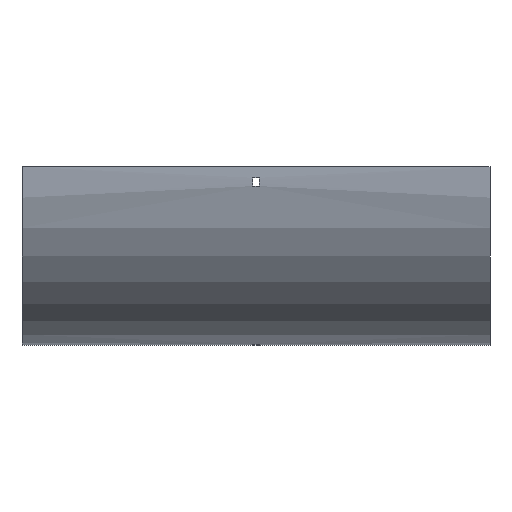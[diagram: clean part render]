
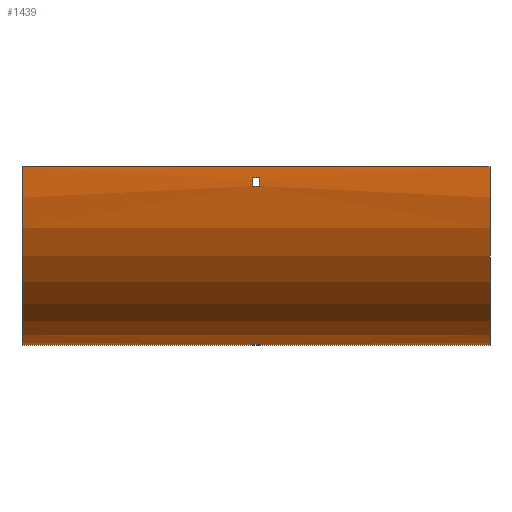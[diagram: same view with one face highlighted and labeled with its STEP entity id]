
A CAD part, front view. The second image highlights one B-rep face of the part: STEP entity #1439.
In plain terms, the highlighted cylindrical face has radius 192.5 mm (diameter 385 mm), a partial arc.
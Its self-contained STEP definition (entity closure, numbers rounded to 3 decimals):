
#4 = DIRECTION ( 'NONE',  ( 0., 0., -1. ) ) ;
#21 = EDGE_CURVE ( 'NONE', #1578, #52, #1414, .T. ) ;
#52 = VERTEX_POINT ( 'NONE', #741 ) ;
#53 = DIRECTION ( 'NONE',  ( -1., 0., 0. ) ) ;
#79 = ORIENTED_EDGE ( 'NONE', *, *, #157, .T. ) ;
#81 = VERTEX_POINT ( 'NONE', #1416 ) ;
#94 = VERTEX_POINT ( 'NONE', #1689 ) ;
#136 = VECTOR ( 'NONE', #246, 1000. ) ;
#143 = ORIENTED_EDGE ( 'NONE', *, *, #225, .T. ) ;
#154 = VERTEX_POINT ( 'NONE', #522 ) ;
#157 = EDGE_CURVE ( 'NONE', #174, #1641, #1050, .T. ) ;
#158 = ORIENTED_EDGE ( 'NONE', *, *, #21, .F. ) ;
#174 = VERTEX_POINT ( 'NONE', #650 ) ;
#176 = FACE_OUTER_BOUND ( 'NONE', #604, .T. ) ;
#185 = EDGE_CURVE ( 'NONE', #94, #1014, #383, .T. ) ;
#194 = EDGE_CURVE ( 'NONE', #871, #1027, #328, .T. ) ;
#225 = EDGE_CURVE ( 'NONE', #1641, #94, #1130, .T. ) ;
#227 = AXIS2_PLACEMENT_3D ( 'NONE', #1411, #496, #868 ) ;
#236 = ORIENTED_EDGE ( 'NONE', *, *, #984, .F. ) ;
#246 = DIRECTION ( 'NONE',  ( -1., 0., 0. ) ) ;
#250 = CIRCLE ( 'NONE', #227, 192.5 ) ;
#261 = DIRECTION ( 'NONE',  ( 1., 0., 0. ) ) ;
#263 = EDGE_CURVE ( 'NONE', #871, #81, #268, .T. ) ;
#268 = LINE ( 'NONE', #1684, #467 ) ;
#286 = CARTESIAN_POINT ( 'NONE',  ( 3.25, 100., 0. ) ) ;
#288 = VERTEX_POINT ( 'NONE', #839 ) ;
#308 = ORIENTED_EDGE ( 'NONE', *, *, #1032, .F. ) ;
#328 = CIRCLE ( 'NONE', #885, 192.5 ) ;
#383 = LINE ( 'NONE', #655, #136 ) ;
#394 = DIRECTION ( 'NONE',  ( 1., 0., 0. ) ) ;
#415 = AXIS2_PLACEMENT_3D ( 'NONE', #716, #432, #1219 ) ;
#426 = DIRECTION ( 'NONE',  ( 0., 0., 1. ) ) ;
#432 = DIRECTION ( 'NONE',  ( 1., 0., 0. ) ) ;
#467 = VECTOR ( 'NONE', #795, 1000. ) ;
#495 = ORIENTED_EDGE ( 'NONE', *, *, #194, .F. ) ;
#496 = DIRECTION ( 'NONE',  ( -1., 0., 0. ) ) ;
#515 = CARTESIAN_POINT ( 'NONE',  ( 3.25, -92.126, -12. ) ) ;
#518 = CARTESIAN_POINT ( 'NONE',  ( 252., 100., -192.5 ) ) ;
#522 = CARTESIAN_POINT ( 'NONE',  ( -3.25, 79., -191.351 ) ) ;
#541 = CARTESIAN_POINT ( 'NONE',  ( 252., -92.5, 0. ) ) ;
#562 = LINE ( 'NONE', #970, #997 ) ;
#571 = DIRECTION ( 'NONE',  ( 1., 0., 0. ) ) ;
#595 = EDGE_CURVE ( 'NONE', #81, #288, #826, .T. ) ;
#604 = EDGE_LOOP ( 'NONE', ( #1621, #643, #495, #860 ) ) ;
#643 = ORIENTED_EDGE ( 'NONE', *, *, #1309, .F. ) ;
#650 = CARTESIAN_POINT ( 'NONE',  ( -3.25, -92.126, -12. ) ) ;
#655 = CARTESIAN_POINT ( 'NONE',  ( 252., -91.351, -21. ) ) ;
#666 = CARTESIAN_POINT ( 'NONE',  ( 3.25, 100., 0. ) ) ;
#687 = AXIS2_PLACEMENT_3D ( 'NONE', #1212, #944, #1089 ) ;
#688 = CYLINDRICAL_SURFACE ( 'NONE', #687, 192.5 ) ;
#716 = CARTESIAN_POINT ( 'NONE',  ( -3.25, 100., 0. ) ) ;
#741 = CARTESIAN_POINT ( 'NONE',  ( 3.25, 88., -192.126 ) ) ;
#777 = CARTESIAN_POINT ( 'NONE',  ( 252., -92.126, -12. ) ) ;
#787 = DIRECTION ( 'NONE',  ( 1., 0., 0. ) ) ;
#795 = DIRECTION ( 'NONE',  ( -1., 0., 0. ) ) ;
#797 = CARTESIAN_POINT ( 'NONE',  ( 252., 88., -192.126 ) ) ;
#826 = CIRCLE ( 'NONE', #1366, 192.5 ) ;
#839 = CARTESIAN_POINT ( 'NONE',  ( -252., 100., -192.5 ) ) ;
#841 = CARTESIAN_POINT ( 'NONE',  ( 252., 100., -192.5 ) ) ;
#860 = ORIENTED_EDGE ( 'NONE', *, *, #263, .T. ) ;
#868 = DIRECTION ( 'NONE',  ( 0., 0., 1. ) ) ;
#871 = VERTEX_POINT ( 'NONE', #541 ) ;
#885 = AXIS2_PLACEMENT_3D ( 'NONE', #1172, #261, #1428 ) ;
#944 = DIRECTION ( 'NONE',  ( -1., 0., 0. ) ) ;
#970 = CARTESIAN_POINT ( 'NONE',  ( 252., 79., -191.351 ) ) ;
#984 = EDGE_CURVE ( 'NONE', #154, #1578, #1316, .T. ) ;
#992 = DIRECTION ( 'NONE',  ( 0., 0., -1. ) ) ;
#997 = VECTOR ( 'NONE', #53, 1000. ) ;
#1014 = VERTEX_POINT ( 'NONE', #1595 ) ;
#1017 = EDGE_CURVE ( 'NONE', #1201, #154, #562, .T. ) ;
#1027 = VERTEX_POINT ( 'NONE', #841 ) ;
#1032 = EDGE_CURVE ( 'NONE', #52, #1201, #1509, .T. ) ;
#1050 = LINE ( 'NONE', #777, #1365 ) ;
#1089 = DIRECTION ( 'NONE',  ( 0., 0., 1. ) ) ;
#1108 = FACE_BOUND ( 'NONE', #1196, .T. ) ;
#1130 = CIRCLE ( 'NONE', #1286, 192.5 ) ;
#1172 = CARTESIAN_POINT ( 'NONE',  ( 252., 100., 0. ) ) ;
#1179 = EDGE_CURVE ( 'NONE', #1014, #174, #250, .T. ) ;
#1196 = EDGE_LOOP ( 'NONE', ( #1275, #1529, #79, #143 ) ) ;
#1201 = VERTEX_POINT ( 'NONE', #1281 ) ;
#1207 = AXIS2_PLACEMENT_3D ( 'NONE', #286, #1355, #426 ) ;
#1212 = CARTESIAN_POINT ( 'NONE',  ( 252., 100., 0. ) ) ;
#1219 = DIRECTION ( 'NONE',  ( 0., 1., 0. ) ) ;
#1235 = VECTOR ( 'NONE', #1576, 1000. ) ;
#1275 = ORIENTED_EDGE ( 'NONE', *, *, #185, .T. ) ;
#1281 = CARTESIAN_POINT ( 'NONE',  ( 3.25, 79., -191.351 ) ) ;
#1286 = AXIS2_PLACEMENT_3D ( 'NONE', #666, #394, #4 ) ;
#1309 = EDGE_CURVE ( 'NONE', #1027, #288, #1683, .T. ) ;
#1315 = DIRECTION ( 'NONE',  ( 1., 0., 0. ) ) ;
#1316 = CIRCLE ( 'NONE', #415, 192.5 ) ;
#1341 = CARTESIAN_POINT ( 'NONE',  ( -252., 100., 0. ) ) ;
#1349 = ORIENTED_EDGE ( 'NONE', *, *, #1017, .F. ) ;
#1355 = DIRECTION ( 'NONE',  ( -1., 0., 0. ) ) ;
#1365 = VECTOR ( 'NONE', #787, 1000. ) ;
#1366 = AXIS2_PLACEMENT_3D ( 'NONE', #1341, #571, #992 ) ;
#1390 = CARTESIAN_POINT ( 'NONE',  ( -3.25, 88., -192.126 ) ) ;
#1411 = CARTESIAN_POINT ( 'NONE',  ( -3.25, 100., 0. ) ) ;
#1414 = LINE ( 'NONE', #797, #1471 ) ;
#1416 = CARTESIAN_POINT ( 'NONE',  ( -252., -92.5, 0. ) ) ;
#1428 = DIRECTION ( 'NONE',  ( 0., 0., -1. ) ) ;
#1439 = ADVANCED_FACE ( 'NONE', ( #176, #1108, #1605 ), #688, .T. ) ;
#1471 = VECTOR ( 'NONE', #1315, 1000. ) ;
#1509 = CIRCLE ( 'NONE', #1207, 192.5 ) ;
#1529 = ORIENTED_EDGE ( 'NONE', *, *, #1179, .T. ) ;
#1576 = DIRECTION ( 'NONE',  ( -1., 0., 0. ) ) ;
#1578 = VERTEX_POINT ( 'NONE', #1390 ) ;
#1595 = CARTESIAN_POINT ( 'NONE',  ( -3.25, -91.351, -21. ) ) ;
#1605 = FACE_BOUND ( 'NONE', #1682, .T. ) ;
#1621 = ORIENTED_EDGE ( 'NONE', *, *, #595, .T. ) ;
#1641 = VERTEX_POINT ( 'NONE', #515 ) ;
#1682 = EDGE_LOOP ( 'NONE', ( #236, #1349, #308, #158 ) ) ;
#1683 = LINE ( 'NONE', #518, #1235 ) ;
#1684 = CARTESIAN_POINT ( 'NONE',  ( 252., -92.5, 0. ) ) ;
#1689 = CARTESIAN_POINT ( 'NONE',  ( 3.25, -91.351, -21. ) ) ;
